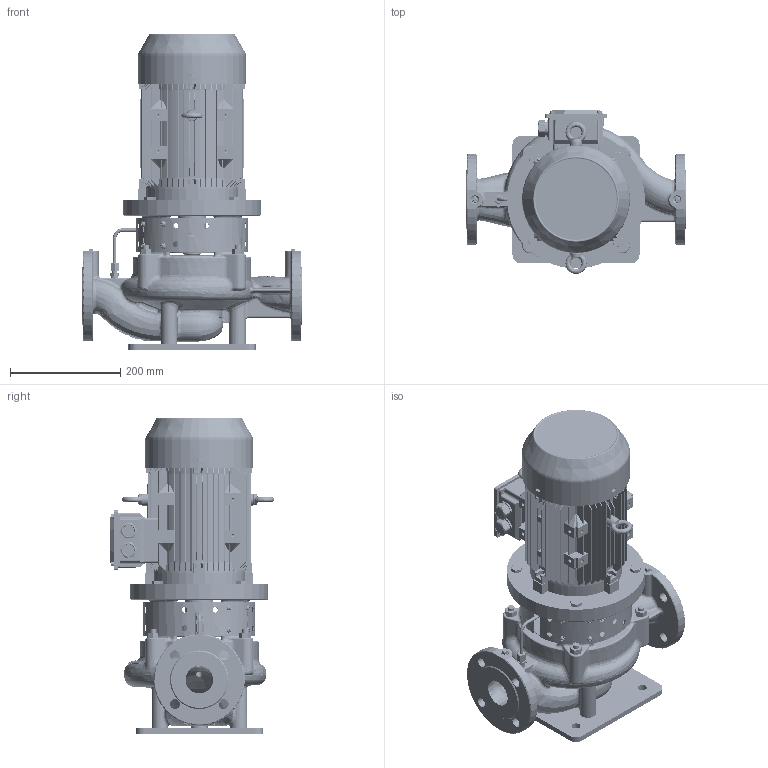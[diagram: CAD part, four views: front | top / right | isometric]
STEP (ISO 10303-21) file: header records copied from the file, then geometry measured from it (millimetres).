
FILE_DESCRIPTION((''),'2;1');
FILE_NAME('409677_ASM','2026-08-12T09:32:04',('brhe'),(''),'CREO PARAMETRIC BY PTC INC, 2023424','CREO PARAMETRIC BY PTC INC, 2023424','');
FILE_SCHEMA(('CONFIG_CONTROL_DESIGN'));
Products named in the file (33): 561143; 561120; 560913; 3008-060KA080; 760279; 760085; 2039311; E41376; 3141-000BA116; 704390; 1833898; 704047_AF5; 659232_ASM; 115470; 115621; 692144_ASM; 560940; 708791; 115363_AF0; 706717; 115635; 708002; 700306; 703239; 659235_ASM; 712095_AF0; 721416; 659238_ASM; 115391; 700365; 659350_ASM; 852200; 409677_ASM
Assembly tree (54 placements, depth 4):
  409677_ASM
    659232_ASM
      561143
      561120
      560913
      3008-060KA080  x4
      760279  x4
      760085
      2039311
      E41376
      3141-000BA116  x2
      704390  x3
      1833898
      704047_AF5
    659235_ASM
      692144_ASM
        115470
        115621
      560940
      708791  x4
      115363_AF0
      706717  x4
      115635
      708002  x3
      700306  x3
      703239  x2
    659238_ASM
      712095_AF0
      721416
    659350_ASM
      115391
      700365  x3
    852200
Bounding box: 400 x 296.6 x 571.49 mm (x, y, z)
Volume: 10560701.5 mm3; surface area: 2073952.3 mm2
Topology: 49 solids, 94 shells, 5713 faces, 15049 edges, 9634 vertices
Faces by surface type: plane 2219, cylinder 1194, bspline 1006, extrusion 501, cone 491, torus 252, sphere 46, revolution 4
Entity records: 315540 total; most frequent: CARTESIAN_POINT 191854, ORIENTED_EDGE 28158, DIRECTION 21493, EDGE_CURVE 14175, VERTEX_POINT 9111, AXIS2_PLACEMENT_3D 7731, VECTOR 6027, EDGE_LOOP 5810
